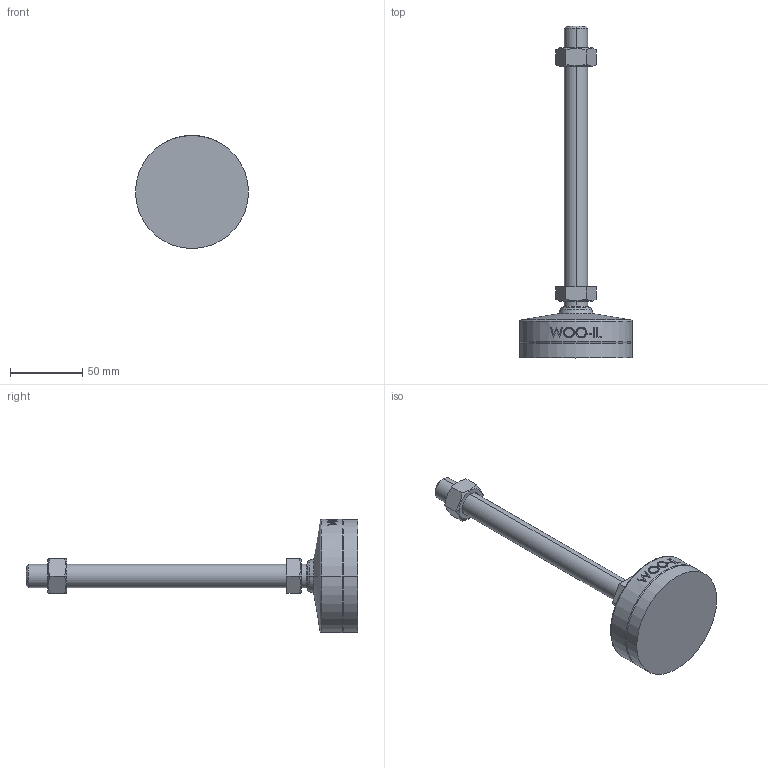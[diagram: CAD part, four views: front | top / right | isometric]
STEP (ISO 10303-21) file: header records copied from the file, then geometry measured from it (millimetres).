
FILE_DESCRIPTION (( 'STEP AP214' ), '1' );
FILE_NAME ('MFNR78-M16-180.step', '2021-02-22T09:07:52', ( '' ), ( '' ), 'SwSTEP 2.0', 'SolidWorks 2019', '' );
FILE_SCHEMA (( 'AUTOMOTIVE_DESIGN' ));
Length unit declared in the file: millimetre
Products named in the file (2): MFNR78-M16-180
Bounding box: 78 x 229 x 78 mm (x, y, z)
Volume: 181566.2 mm3; surface area: 29290.6 mm2
Topology: 2 solids, 2 shells, 105 faces, 245 edges, 156 vertices
Faces by surface type: plane 47, cone 18, cylinder 18, bspline 16, torus 4, sphere 2
Entity records: 4517 total; most frequent: CARTESIAN_POINT 2180, ORIENTED_EDGE 490, DIRECTION 437, EDGE_CURVE 245, AXIS2_PLACEMENT_3D 167, VERTEX_POINT 156, EDGE_LOOP 119, FACE_OUTER_BOUND 105
